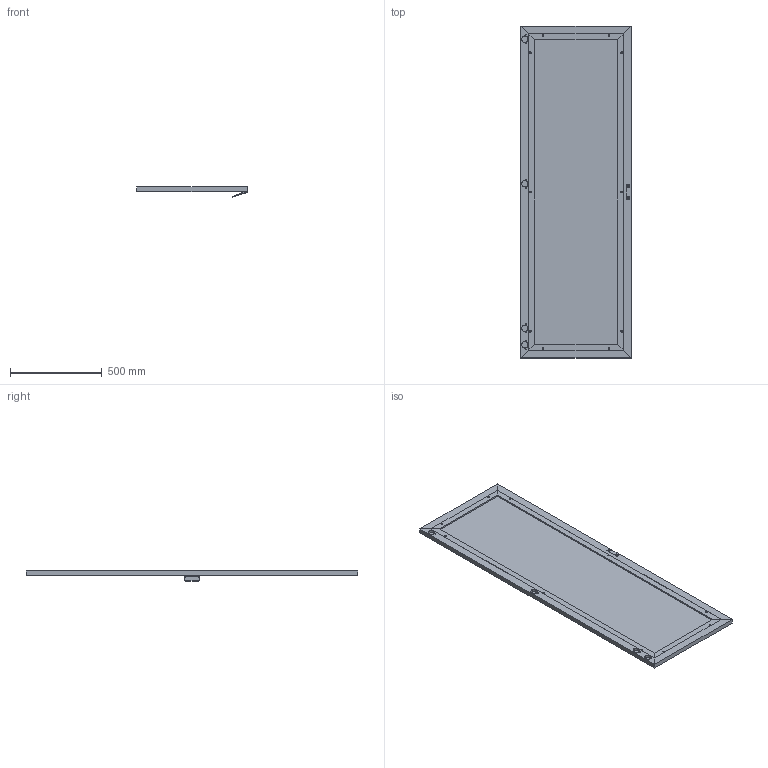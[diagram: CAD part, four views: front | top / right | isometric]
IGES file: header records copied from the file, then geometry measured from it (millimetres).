
Global section: file name: 80022; native system: Autodesk Inventor 2014; preprocessor: unknown; author: Robertom; date: 20140526.112401; units: millimetre
Bounding box: 602 x 1813 x 55.13 mm (x, y, z)
Volume: 12858223 mm3; surface area: 2931969.8 mm2
Topology: 10 solids, 10 shells, 194 faces, 524 edges, 362 vertices
Faces by surface type: bspline 194
